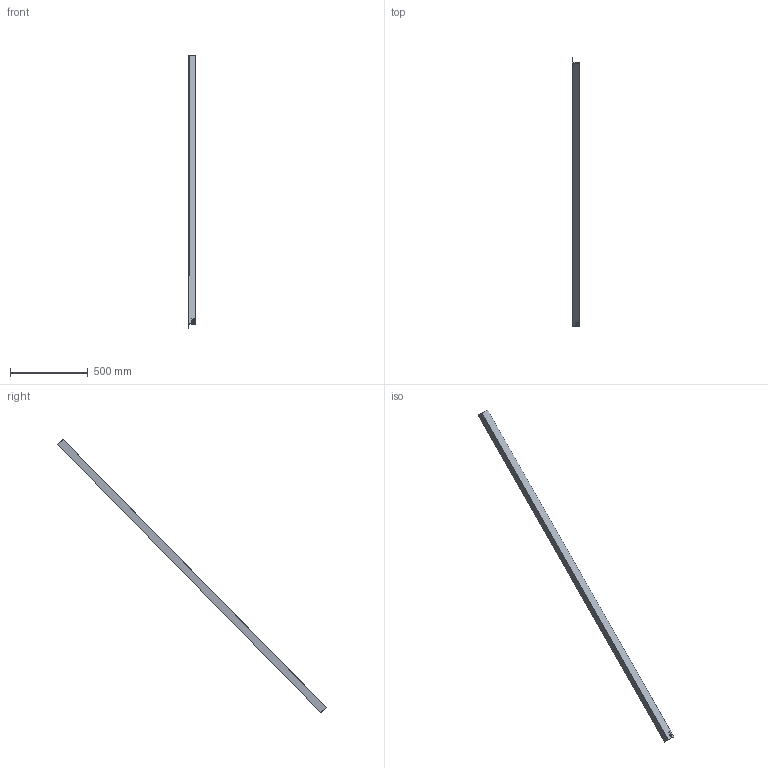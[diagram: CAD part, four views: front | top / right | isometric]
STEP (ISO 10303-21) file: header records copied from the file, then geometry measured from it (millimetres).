
FILE_DESCRIPTION (( 'STEP AP214' ), '1' );
FILE_NAME ('CCJ029-REP.044 - CONTREVENTEMENT B4-C4.STEP', '2024-01-10T14:38:27', ( '' ), ( '' ), 'SwSTEP 2.0', 'SolidWorks 2021', '' );
FILE_SCHEMA (( 'AUTOMOTIVE_DESIGN' ));
Length unit declared in the file: millimetre
Products named in the file (1): CCJ029-REP.044 - CONTREVENTEMENT B4-C4
Bounding box: 50 x 1725.81 x 1760.65 mm (x, y, z)
Volume: 1159961.1 mm3; surface area: 469635.9 mm2
Topology: 1 solids, 1 shells, 52 faces, 132 edges, 88 vertices
Faces by surface type: plane 40, bspline 9, cylinder 3
Entity records: 2298 total; most frequent: CARTESIAN_POINT 1058, ORIENTED_EDGE 264, DIRECTION 208, EDGE_CURVE 132, LINE 108, VECTOR 108, VERTEX_POINT 88, EDGE_LOOP 58
